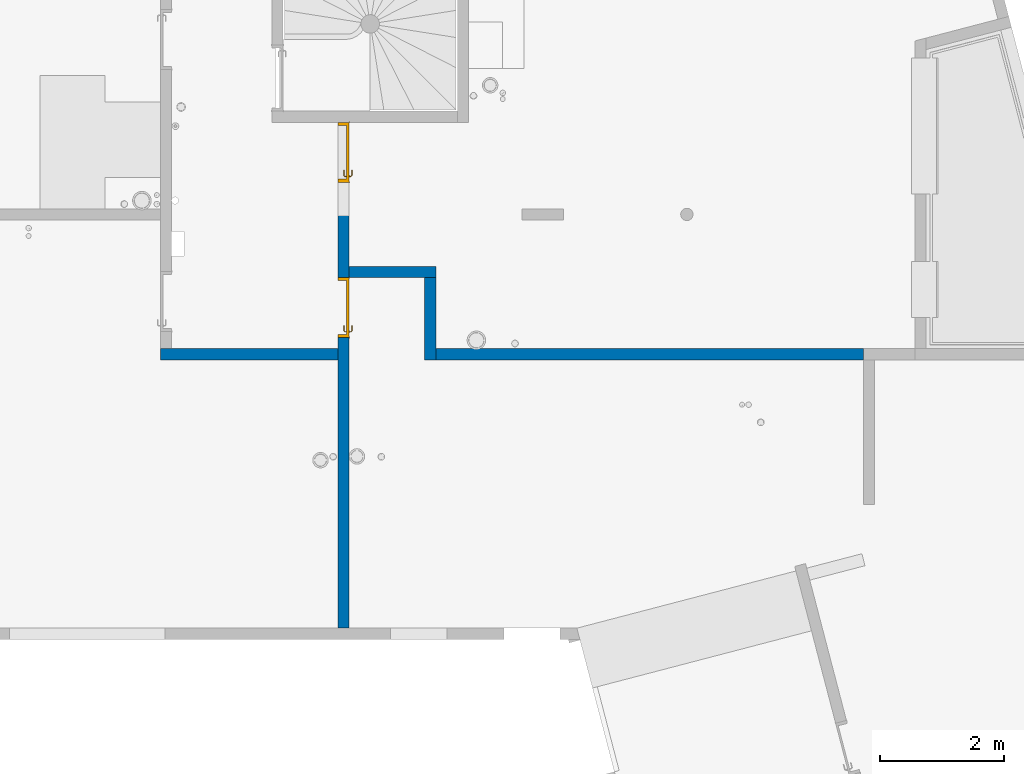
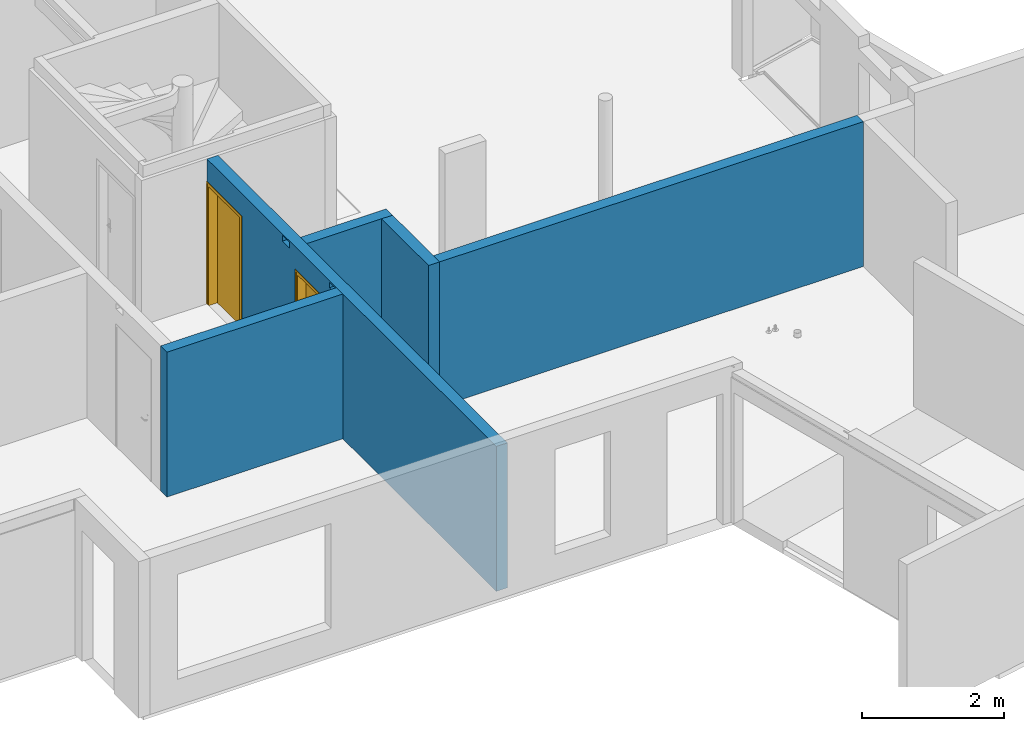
# One storey, part 13 of 24: 5 walls, 2 doors, 4 openings.
"""IFC2X3 building model written with IfcOpenShell, lengths in centimetres."""

import ifcopenshell
import ifcopenshell.guid

model = None  # the IFC model being written
_history = None  # IfcOwnerHistory: only IFC2X3 demands one
_inside = {}  # id of a spatial element -> (the spatial element, [elements in it])
_under = {}  # id of a project, library or spatial element -> (it, [spatial elements below it])
_declared = {}  # id of a project -> (the project, [libraries it declares])
_typed = {}  # id of a type object -> (the type object, [elements of that type])
_made_of = {}  # id of a material, layer set ... -> (it, [elements and type objects made of it])


def new_model(schema):
    """Start an empty IFC model of exactly this schema.

    Asked for "IFC4X3", IfcOpenShell would pick the latest addendum, in which some entities
    have other attributes; the version numbers below select the first issue.
    IFC2X3 requires an IfcOwnerHistory on every rooted entity: one is made here for all.
    """
    global model, _history
    if schema == "IFC4X3":
        model = ifcopenshell.file(schema_version=(4, 3, 0, 0))
    else:
        model = ifcopenshell.file(schema=schema)
    _inside.clear()
    _under.clear()
    _declared.clear()
    _typed.clear()
    _made_of.clear()
    _history = None
    if model.schema == "IFC2X3":
        org = make("IfcOrganization", Name="unknown")
        user = make(
            "IfcPersonAndOrganization",
            ThePerson=make("IfcPerson", FamilyName="unknown"),
            TheOrganization=org,
        )
        app = make(
            "IfcApplication",
            ApplicationDeveloper=org,
            Version="unknown",
            ApplicationFullName="unknown",
            ApplicationIdentifier="unknown",
        )
        _history = make(
            "IfcOwnerHistory",
            OwningUser=user,
            OwningApplication=app,
            ChangeAction="ADDED",
            CreationDate=0,
        )
    return model


def make(cls, **values):
    """One entity of the class cls with the attributes given. An attribute that is None is left unset."""
    return model.create_entity(
        cls, **{name: value for name, value in values.items() if value is not None}
    )


def entity(cls, *values):
    """Any entity or typed value of the class cls, its attributes in the order of the schema. None: left unset."""
    e = model.create_entity(cls)
    for i, value in enumerate(values):
        if value is not None:
            e[i] = value
    return e


def rooted(cls, **values):
    """An entity with a GlobalId (a new one), such as an element, a storey or a relation."""
    return make(cls, GlobalId=ifcopenshell.guid.new(), OwnerHistory=_history, **values)


def si_unit(unit_type, name, prefix=None):
    """IfcSIUnit, for example si_unit("LENGTHUNIT", "METRE", prefix="MILLI")."""
    return make("IfcSIUnit", UnitType=unit_type, Prefix=prefix, Name=name)


def converted_unit(unit_type, name, factor, base, dimensions=None, offset=None):
    """IfcConversionBasedUnit, such as the inch: factor (a typed value) times the base unit."""
    return make(
        "IfcConversionBasedUnit"
        if offset is None
        else "IfcConversionBasedUnitWithOffset",
        ConversionOffset=offset,
        Dimensions=None
        if dimensions is None
        else entity("IfcDimensionalExponents", *dimensions),
        UnitType=unit_type,
        Name=name,
        ConversionFactor=make(
            "IfcMeasureWithUnit", ValueComponent=factor, UnitComponent=base
        ),
    )


def derived_unit(unit_type, elements):
    """IfcDerivedUnit: a product of units, each with its exponent."""
    return make(
        "IfcDerivedUnit",
        Elements=[
            make("IfcDerivedUnitElement", Unit=unit, Exponent=power)
            for unit, power in elements
        ],
        UnitType=unit_type,
    )


def assignment(units):
    """IfcUnitAssignment: the units of a project."""
    return None if units is None else make("IfcUnitAssignment", Units=units)


def point(xyz):
    """IfcCartesianPoint."""
    return None if xyz is None else make("IfcCartesianPoint", Coordinates=xyz)


def direction(xyz):
    """IfcDirection."""
    return None if xyz is None else make("IfcDirection", DirectionRatios=xyz)


def frame(location, z_axis=None, x_axis=None):
    """IfcAxis2Placement3D, a coordinate frame: its origin and axes. An axis left out is left unset."""
    return make(
        "IfcAxis2Placement3D",
        Location=point(location),
        Axis=direction(z_axis),
        RefDirection=direction(x_axis),
    )


def frame_2d(location, x_axis=None):
    """IfcAxis2Placement2D, a coordinate frame in the plane: its origin and x axis."""
    return make(
        "IfcAxis2Placement2D", Location=point(location), RefDirection=direction(x_axis)
    )


def origin():
    """The frame at (0, 0, 0) with its axes left unset."""
    return frame((0.0, 0.0, 0.0))


def place(relative_to, where):
    """IfcLocalPlacement: puts the frame where relative to a parent placement (None: the world)."""
    return make(
        "IfcLocalPlacement", PlacementRelTo=relative_to, RelativePlacement=where
    )


def context(
    kind, dimensions, precision=None, world=None, true_north=None, identifier=None
):
    """IfcGeometricRepresentationContext, for example the 3D "Model" context."""
    return make(
        "IfcGeometricRepresentationContext",
        ContextIdentifier=identifier,
        ContextType=kind,
        CoordinateSpaceDimension=dimensions,
        Precision=precision,
        WorldCoordinateSystem=world,
        TrueNorth=true_north,
    )


def subcontext(parent, identifier, kind, view, scale=None):
    """IfcGeometricRepresentationSubContext, for example "Body" below "Model"."""
    return make(
        "IfcGeometricRepresentationSubContext",
        ContextIdentifier=identifier,
        ContextType=kind,
        ParentContext=parent,
        TargetScale=scale,
        TargetView=view,
    )


def project(units=None, contexts=None):
    """IfcProject with its units and contexts."""
    return rooted(
        "IfcProject",
        Name="project",
        RepresentationContexts=contexts,
        UnitsInContext=assignment(units),
    )


def spatial(cls, under=None, at=None, **own):
    """A site, building, storey or space (cls), placed at a placement, below another one or the project."""
    s = rooted(cls, ObjectPlacement=at, **own)
    if under is not None:
        _under.setdefault(under.id(), (under, []))[1].append(s)
    return s


def profile(cls, at=None, kind="AREA", **sizes):
    """A parametric profile (cls). Its sizes go by their IFC names, for example OverallWidth=200.0."""
    return make(cls, ProfileType=kind, Position=at, **sizes)


def rectangle(**sizes):
    """IfcRectangleProfileDef."""
    return profile("IfcRectangleProfileDef", **sizes)


def extrude(swept, where, along, depth):
    """IfcExtrudedAreaSolid: the profile swept, set in the frame where, extruded along a direction by depth."""
    return make(
        "IfcExtrudedAreaSolid",
        SweptArea=swept,
        Position=where,
        ExtrudedDirection=direction(along),
        Depth=depth,
    )


def faces_of(points, faces, orient=None, outer=None):
    """IfcFace entities. A face is a list of loops; a loop is a list of indices into points, from 0.

    orient and outer hold one flag for each loop. By default every Orientation is true, the
    first loop of a face is its IfcFaceOuterBound and the others are IfcFaceBound.
    """
    made = []
    for i, loops in enumerate(faces):
        bounds = []
        for j, loop in enumerate(loops):
            is_outer = j == 0 if outer is None else outer[i][j]
            bounds.append(
                make(
                    "IfcFaceOuterBound" if is_outer else "IfcFaceBound",
                    Bound=make("IfcPolyLoop", Polygon=[points[k] for k in loop]),
                    Orientation=True if orient is None else orient[i][j],
                )
            )
        made.append(make("IfcFace", Bounds=bounds))
    return made


def faceted_brep(points, faces, orient=None, outer=None, voids=None):
    """IfcFacetedBrep: a solid bounded by flat faces; with voids (closed shells), ...WithVoids."""
    shared = [point(p) for p in points]
    hull = make("IfcClosedShell", CfsFaces=faces_of(shared, faces, orient, outer))
    if voids is None:
        return make("IfcFacetedBrep", Outer=hull)
    return make(
        "IfcFacetedBrepWithVoids",
        Outer=hull,
        Voids=[
            make(cls, CfsFaces=faces_of(shared, fs, o, b)) for cls, fs, o, b in voids
        ],
    )


def shape(context_of_items, identifier, shape_type, items):
    """IfcShapeRepresentation: the items that make up one representation, for example the "Body"."""
    return make(
        "IfcShapeRepresentation",
        ContextOfItems=context_of_items,
        RepresentationIdentifier=identifier,
        RepresentationType=shape_type,
        Items=items,
    )


def source(mapping_origin, context_of_items, identifier, shape_type, items):
    """IfcRepresentationMap: a shape defined once, which mapped items show again and again."""
    return make(
        "IfcRepresentationMap",
        MappingOrigin=mapping_origin,
        MappedRepresentation=shape(context_of_items, identifier, shape_type, items),
    )


def transform(
    local_origin,
    x_axis=None,
    y_axis=None,
    z_axis=None,
    scale=None,
    scale2=None,
    scale3=None,
    uniform=True,
):
    """IfcCartesianTransformationOperator3D, or its non-uniform kind. x_axis, y_axis, z_axis: its Axis1, 2, 3."""
    if uniform:
        return make(
            "IfcCartesianTransformationOperator3D",
            Axis1=direction(x_axis),
            Axis2=direction(y_axis),
            LocalOrigin=point(local_origin),
            Scale=scale,
            Axis3=direction(z_axis),
        )
    return make(
        "IfcCartesianTransformationOperator3DnonUniform",
        Axis1=direction(x_axis),
        Axis2=direction(y_axis),
        LocalOrigin=point(local_origin),
        Scale=scale,
        Axis3=direction(z_axis),
        Scale2=scale2,
        Scale3=scale3,
    )


def mapped(mapping_source, mapping_target):
    """IfcMappedItem: shows the shape of a source again, moved by a transform."""
    return make(
        "IfcMappedItem", MappingSource=mapping_source, MappingTarget=mapping_target
    )


def material(Name=None, Category=None):
    """IfcMaterial."""
    return make("IfcMaterial", Name=Name, Category=Category)


def material_list(materials):
    """IfcMaterialList."""
    return make("IfcMaterialList", Materials=materials)


def layer(
    of_material, thickness, ventilated=None, Name=None, Category=None, Priority=None
):
    """IfcMaterialLayer: one layer of a wall or slab, of a material (None: an air gap)."""
    return make(
        "IfcMaterialLayer",
        Material=of_material,
        LayerThickness=thickness,
        IsVentilated=ventilated,
        Name=Name,
        Category=Category,
        Priority=Priority,
    )


def layer_set(layers, Name=None):
    """IfcMaterialLayerSet."""
    return make("IfcMaterialLayerSet", MaterialLayers=layers, LayerSetName=Name)


def layer_usage(for_layer_set, set_direction, sense, offset, extent=None):
    """IfcMaterialLayerSetUsage: how a layer set lies in its element."""
    return make(
        "IfcMaterialLayerSetUsage",
        ForLayerSet=for_layer_set,
        LayerSetDirection=set_direction,
        DirectionSense=sense,
        OffsetFromReferenceLine=offset,
        ReferenceExtent=extent,
    )


def made_of(thing, what):
    """Note that an element or type object is made of a material, layer set ...; save() writes the relation."""
    if what is not None:
        _made_of.setdefault(what.id(), (what, []))[1].append(thing)
    return thing


def type_object(cls, material=None, **own):
    """A type object (cls), such as IfcWallType, which elements share."""
    return made_of(rooted(cls, **own), material)


def type_shapes(of_type, sources):
    """Give a type object the sources (RepresentationMaps) that its elements show as mapped items."""
    of_type.RepresentationMaps = sources


def element(
    cls,
    number,
    at=None,
    inside=None,
    cuts=None,
    type_object=None,
    material=None,
    context=None,
    identifier="Body",
    shape_type=None,
    held_by="IfcProductDefinitionShape",
    body=None,
    shapes=None,
    **own,
):
    """One element of the class cls, such as IfcWall. Its Tag is "e" and its number.

    at: its placement. inside: the storey or other place that contains it. cuts: it is an
    opening in that element (IfcRelVoidsElement). A single representation is given by context,
    identifier, shape_type and body (its items); several are given by shapes. held_by: the class
    of the entity that holds the representations. save() writes the other relations.
    """
    e = rooted(cls, Tag="e%d" % number, ObjectPlacement=at, **own)
    if body is not None:
        shapes = [shape(context, identifier, shape_type, body)]
    if shapes is not None:
        e.Representation = make(held_by, Representations=shapes)
    if inside is not None:
        _inside.setdefault(inside.id(), (inside, []))[1].append(e)
    if cuts is not None:
        rooted(
            "IfcRelVoidsElement", RelatingBuildingElement=cuts, RelatedOpeningElement=e
        )
    if type_object is not None:
        _typed.setdefault(type_object.id(), (type_object, []))[1].append(e)
    return made_of(e, material)


def fill(opening, filler):
    """IfcRelFillsElement: the door or window that sits in an opening."""
    return rooted(
        "IfcRelFillsElement",
        RelatingOpeningElement=opening,
        RelatedBuildingElement=filler,
    )


def aggregate(whole, parts):
    """IfcRelAggregates: a whole, such as a stair, and the parts it consists of."""
    return rooted("IfcRelAggregates", RelatingObject=whole, RelatedObjects=parts)


def save(model, path):
    """Write the relations noted so far, then the file.

    IfcRelAggregates (storeys below a building ...), IfcRelContainedInSpatialStructure (elements
    in a storey), IfcRelDefinesByType, IfcRelAssociatesMaterial and IfcRelDeclares: one each for
    every whole, place, type object, material and project.
    """
    for whole, parts in _under.values():
        aggregate(whole, parts)
    for where, things in _inside.values():
        rooted(
            "IfcRelContainedInSpatialStructure",
            RelatedElements=things,
            RelatingStructure=where,
        )
    for kind, things in _typed.values():
        rooted("IfcRelDefinesByType", RelatedObjects=things, RelatingType=kind)
    for what, things in _made_of.values():
        rooted("IfcRelAssociatesMaterial", RelatedObjects=things, RelatingMaterial=what)
    for by, libraries in _declared.values():
        rooted("IfcRelDeclares", RelatingContext=by, RelatedDefinitions=libraries)
    model.write(path)


model = new_model("IFC2X3")

# Units and contexts
model_context = context("Model", 3, precision=0.001, world=origin(), true_north=direction((6.12303176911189e-17, 1.0)))
body_context = subcontext(model_context, "Body", "Model", "MODEL_VIEW")
ifc_project = project(units=[si_unit("LENGTHUNIT", "METRE", prefix="CENTI"), si_unit("AREAUNIT", "SQUARE_METRE"), si_unit("VOLUMEUNIT", "CUBIC_METRE"), converted_unit("PLANEANGLEUNIT", "DEGREE", entity("IfcRatioMeasure", 0.0174532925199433), si_unit("PLANEANGLEUNIT", "RADIAN"), dimensions=[0, 0, 0, 0, 0, 0, 0]), si_unit("MASSUNIT", "GRAM", prefix="KILO"), derived_unit("MASSDENSITYUNIT", [(si_unit("MASSUNIT", "GRAM", prefix="KILO"), 1), (si_unit("LENGTHUNIT", "METRE"), -3)]), si_unit("TIMEUNIT", "SECOND"), si_unit("FREQUENCYUNIT", "HERTZ"), si_unit("THERMODYNAMICTEMPERATUREUNIT", "DEGREE_CELSIUS"), derived_unit("THERMALTRANSMITTANCEUNIT", [(si_unit("MASSUNIT", "GRAM", prefix="KILO"), 1), (si_unit("THERMODYNAMICTEMPERATUREUNIT", "KELVIN"), -1), (si_unit("TIMEUNIT", "SECOND"), -3)]), derived_unit("VOLUMETRICFLOWRATEUNIT", [(si_unit("LENGTHUNIT", "METRE"), 3), (si_unit("TIMEUNIT", "SECOND"), -1)]), si_unit("ELECTRICCURRENTUNIT", "AMPERE"), si_unit("ELECTRICVOLTAGEUNIT", "VOLT"), si_unit("POWERUNIT", "WATT"), si_unit("FORCEUNIT", "NEWTON"), si_unit("ILLUMINANCEUNIT", "LUX"), si_unit("LUMINOUSFLUXUNIT", "LUMEN"), si_unit("LUMINOUSINTENSITYUNIT", "CANDELA"), derived_unit("USERDEFINED", [(si_unit("MASSUNIT", "GRAM", prefix="KILO"), -1), (si_unit("LENGTHUNIT", "METRE"), -2), (si_unit("TIMEUNIT", "SECOND"), 3), (si_unit("LUMINOUSFLUXUNIT", "LUMEN"), 1)]), derived_unit("LINEARVELOCITYUNIT", [(si_unit("LENGTHUNIT", "METRE"), 1), (si_unit("TIMEUNIT", "SECOND"), -1)]), si_unit("PRESSUREUNIT", "PASCAL"), derived_unit("USERDEFINED", [(si_unit("LENGTHUNIT", "METRE"), -2), (si_unit("MASSUNIT", "GRAM", prefix="KILO"), 1), (si_unit("TIMEUNIT", "SECOND"), -2)])], contexts=[model_context])

# Site, building, storey
site_placement = place(None, origin())
site = spatial("IfcSite", under=ifc_project, at=site_placement, Name="Default", CompositionType="ELEMENT")
building_placement = place(site_placement, origin())
building = spatial("IfcBuilding", under=site, at=building_placement, Name="CAGE 03", CompositionType="ELEMENT")
storey_placement = place(building_placement, frame((0.0, 0.0, 880.0)))
storey = spatial("IfcBuildingStorey", under=building, at=storey_placement, Name="R+3", CompositionType="ELEMENT", Elevation=880.0)

# Wall
ifc_material_1 = material(Name="Béton, C25/30")
ifc_layer = layer(ifc_material_1, 18.0)
ifc_layer_set = layer_set([ifc_layer], Name="Mur de base:Voile BA 18")
ifc_layer_usage_1 = layer_usage(ifc_layer_set, "AXIS2", "POSITIVE", -9.0)
wall_type = type_object("IfcWallType", Name="Mur de base:Voile BA 18", PredefinedType="STANDARD", material=ifc_layer_set)
wall_1_placement = place(storey_placement, frame((10455.3658201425, 4390.66066607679, 0.0), z_axis=(0.0, 0.0, 1.0), x_axis=(-1.0, 0.0, 0.0)))
element("IfcWallStandardCase", 1, at=wall_1_placement, inside=storey, type_object=wall_type, material=ifc_layer_usage_1, Name="Mur de base:Voile BA 18", ObjectType="Mur de base:Voile BA 18", context=body_context, shape_type="SweptSolid", body=[
    extrude(rectangle(XDim=139.999999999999, YDim=17.9999999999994, at=frame_2d((69.9999999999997, -1.81188397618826e-13), x_axis=(-1.0, 0.0))), origin(), (0.0, 0.0, 1.0), 250.0),
])

# Wall, openings, doors
ifc_layer_usage_2 = layer_usage(ifc_layer_set, "AXIS2", "POSITIVE", -9.0)
wall_2_placement = place(storey_placement, frame((10306.3658201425, 4632.66066607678, 0.0), z_axis=(0.0, 0.0, 1.0), x_axis=(0.0, -1.0, 0.0)))
wall_2 = element("IfcWallStandardCase", 2, at=wall_2_placement, inside=storey, type_object=wall_type, material=ifc_layer_usage_2, Name="Mur de base:Voile BA 18", ObjectType="Mur de base:Voile BA 18", context=body_context, shape_type="SweptSolid", body=[
    extrude(rectangle(XDim=817.999999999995, YDim=17.9999999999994, at=frame_2d((408.999999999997, 5.23137089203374e-13), x_axis=(-1.0, 0.0))), origin(), (0.0, 0.0, 1.0), 250.0),
])
opening_1_placement = place(wall_2_placement, origin())
element("IfcOpeningElement", 3, at=opening_1_placement, cuts=wall_2, Name="Mur de base:Voile BA 18", ObjectType="Opening", context=body_context, shape_type="SweptSolid", body=[
    extrude(rectangle(XDim=9.99999999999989, YDim=19.9999999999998, at=frame_2d((-4.33431068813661e-13, 0.0), x_axis=(0.0, 1.0))), frame((223.0, -9.0, 242.5), z_axis=(0.0, 1.0, 0.0), x_axis=(1.0, 0.0, 0.0)), (0.0, 0.0, 1.0), 17.9999999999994),
])
opening_2_placement = place(wall_2_placement, origin())
element("IfcOpeningElement", 4, at=opening_2_placement, cuts=wall_2, Name="Mur de base:Voile BA 18", ObjectType="Opening", context=body_context, shape_type="SweptSolid", body=[
    extrude(rectangle(XDim=9.99999999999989, YDim=19.9999999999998, at=frame_2d((4.33431068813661e-13, 0.0), x_axis=(0.0, 1.0))), frame((356.0, -9.0, 242.5), z_axis=(0.0, 1.0, 0.0), x_axis=(1.0, 0.0, 0.0)), (0.0, 0.0, 1.0), 17.9999999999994),
])
opening_3_placement = place(wall_2_placement, frame((251.0, -9.0, 0.0)))
opening_3 = element("IfcOpeningElement", 5, at=opening_3_placement, cuts=wall_2, Name="Int. Simple:HB93:1", ObjectType="Opening", context=body_context, shape_type="SweptSolid", body=[
    extrude(rectangle(XDim=210.000000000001, YDim=96.9999999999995, at=frame_2d((105.000000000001, 48.4999999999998), x_axis=(1.0, 0.0))), frame((0.0, 0.0, 0.0), z_axis=(0.0, 1.0, 0.0), x_axis=(0.0, 0.0, 1.0)), (0.0, 0.0, 1.0), 18.0),
])
opening_4_placement = place(wall_2_placement, frame((0.0, -9.0, 0.0)))
opening_4 = element("IfcOpeningElement", 6, at=opening_4_placement, cuts=wall_2, Name="Int. Simple:HB93:1", ObjectType="Opening", context=body_context, shape_type="SweptSolid", body=[
    extrude(rectangle(XDim=210.000000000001, YDim=96.9999999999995, at=frame_2d((105.000000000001, 48.4999999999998), x_axis=(1.0, 0.0))), frame((0.0, 0.0, 0.0), z_axis=(0.0, 1.0, 0.0), x_axis=(0.0, 0.0, 1.0)), (0.0, 0.0, 1.0), 18.0),
])
ifc_material_2 = material(Name="Finition Peinture - Blanc satiné")
ifc_material_3 = material(Name="Bois - Panneau de porte")
ifc_material_4 = material(Name="Bois - Cadre de porte")
ifc_material_list_1 = material_list([ifc_material_2, ifc_material_3, ifc_material_4])
ifc_material_list_2 = material_list([ifc_material_2, ifc_material_3, ifc_material_4])
door_style = type_object("IfcDoorStyle", Name="HB93", ConstructionType="NOTDEFINED", OperationType="SINGLE_SWING_LEFT", ParameterTakesPrecedence=False, Sizeable=False, material=ifc_material_list_2)
shared_shape = source(origin(), body_context, "Body", "Brep", [
    faceted_brep([(10.5352761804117, -0.500000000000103, 86.6003983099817), (11.5000000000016, -0.500000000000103, 87.0), (11.5000000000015, -0.500000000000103, 108.0), (10.5352761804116, -0.500000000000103, 108.399601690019), (9.50000000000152, -0.500000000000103, 108.535898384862), (8.46472381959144, -0.500000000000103, 108.399601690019), (7.50000000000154, -0.500000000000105, 108.0), (7.50000000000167, -0.500000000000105, 87.0), (8.46472381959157, -0.500000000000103, 86.6003983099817), (9.50000000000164, -0.500000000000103, 86.464101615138), (10.5352761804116, 0.0, 108.399601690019), (11.5000000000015, 0.0, 108.0), (11.5000000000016, 0.0, 87.0), (10.5352761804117, 0.0, 86.6003983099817), (9.50000000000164, 0.0, 86.464101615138), (8.46472381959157, 0.0, 86.6003983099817), (7.50000000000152, 0.0, 87.0), (7.50000000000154, 0.0, 108.0), (8.46472381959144, 0.0, 108.399601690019), (9.50000000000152, 0.0, 108.535898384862)], [[[0, 1, 2, 3, 4, 5, 6, 7, 8, 9]], [[10, 11, 12, 13, 14, 15, 16, 17, 18, 19]], [[16, 15, 8, 7]], [[8, 15, 14, 9]], [[14, 13, 0, 9]], [[13, 12, 1, 0]], [[2, 1, 12, 11]], [[11, 10, 3, 2]], [[3, 10, 19, 4]], [[19, 18, 5, 4]], [[18, 17, 6, 5]], [[7, 6, 17, 16]]]),
    faceted_brep([(10.5352761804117, 4.0, 86.6003983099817), (11.5000000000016, 4.0, 87.0), (11.5000000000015, 4.0, 108.0), (10.5352761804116, 4.0, 108.399601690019), (9.50000000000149, 4.0, 108.535898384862), (8.46472381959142, 4.0, 108.399601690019), (7.50000000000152, 4.0, 108.0), (7.50000000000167, 4.0, 87.0), (8.46472381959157, 4.0, 86.6003983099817), (9.50000000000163, 4.0, 86.464101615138), (10.5352761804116, 4.49999999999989, 108.399601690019), (11.5000000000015, 4.4999999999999, 108.0), (11.5000000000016, 4.4999999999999, 87.0), (10.5352761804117, 4.49999999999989, 86.6003983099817), (9.50000000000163, 4.49999999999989, 86.464101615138), (8.46472381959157, 4.49999999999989, 86.6003983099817), (7.50000000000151, 4.49999999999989, 87.0), (7.50000000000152, 4.49999999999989, 108.0), (8.46472381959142, 4.49999999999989, 108.399601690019), (9.50000000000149, 4.49999999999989, 108.535898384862)], [[[0, 1, 2, 3, 4, 5, 6, 7, 8, 9]], [[10, 11, 12, 13, 14, 15, 16, 17, 18, 19]], [[11, 10, 3, 2]], [[3, 10, 19, 4]], [[19, 18, 5, 4]], [[18, 17, 6, 5]], [[7, 6, 17, 16]], [[16, 15, 8, 7]], [[8, 15, 14, 9]], [[14, 13, 0, 9]], [[13, 12, 1, 0]], [[2, 1, 12, 11]]]),
    faceted_brep([(9.29747013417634, -0.500000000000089, 100.778044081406), (9.70252986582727, -0.500000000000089, 100.778044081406), (10.1000000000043, -0.500000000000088, 100.699999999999), (10.1000000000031, -0.500000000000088, 99.3000000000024), (9.70252986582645, -0.500000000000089, 99.2219559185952), (9.29747013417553, -0.500000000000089, 99.221955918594), (8.89999999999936, -0.500000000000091, 99.2999999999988), (8.89999999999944, -0.500000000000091, 100.7), (8.89999999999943, -3.26509507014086, 100.7), (9.29747013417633, -3.10045754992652, 100.778044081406), (10.9023585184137, -4.70534593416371, 100.778044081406), (11.0701397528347, -4.30028620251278, 100.778044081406), (9.70252986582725, -2.93267631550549, 100.778044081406), (10.1000000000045, -2.76803879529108, 100.7), (10.1000000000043, -2.76803879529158, 99.3000000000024), (9.70252986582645, -2.93267631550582, 99.2219559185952), (11.0701397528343, -4.30028620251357, 99.2219559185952), (10.9023585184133, -4.70534593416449, 99.221955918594), (9.29747013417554, -3.10045754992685, 99.221955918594), (8.89999999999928, -3.26509507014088, 99.2999999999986), (10.7377209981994, -5.1028160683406, 100.7), (11.2347772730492, -3.90281606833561, 100.7), (11.2347772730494, -3.90281606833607, 99.3000000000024), (10.7377209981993, -5.10281606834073, 99.2999999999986), (19.5018640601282, -5.1028160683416, 99.2999999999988), (19.5018640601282, -4.70534593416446, 99.221955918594), (19.5018640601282, -4.30028620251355, 99.2219559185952), (19.5018640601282, -3.90281606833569, 99.3000000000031), (19.5018640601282, -3.90281606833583, 100.7), (19.5018640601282, -4.30028620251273, 100.778044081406), (19.5018640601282, -4.70534593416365, 100.778044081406), (19.5018640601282, -5.10281606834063, 100.699999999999), (14.7307697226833, -5.10281606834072, 100.7), (15.28600190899, -4.5028160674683, 100.78786867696), (15.3683206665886, -3.9028160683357, 100.7), (15.3683206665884, -3.90281606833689, 99.3000000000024), (15.2860018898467, -4.50281607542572, 99.2121313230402), (14.7307700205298, -5.10281606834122, 99.2999999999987)], [[[0, 1, 2, 3, 4, 5, 6, 7]], [[8, 9, 0, 7]], [[9, 10, 11, 12, 1, 0]], [[12, 13, 2, 1]], [[3, 2, 13, 14]], [[14, 15, 4, 3]], [[15, 16, 17, 18, 5, 4]], [[18, 19, 6, 5]], [[7, 6, 19, 8]], [[20, 10, 9, 8]], [[11, 21, 13, 12]], [[14, 13, 21, 22]], [[22, 16, 15, 14]], [[17, 23, 19, 18]], [[8, 19, 23, 20]], [[24, 25, 26, 27, 28, 29, 30, 31]], [[32, 30, 33]], [[31, 30, 32]], [[10, 20, 32]], [[33, 34, 11]], [[21, 11, 34]], [[34, 29, 28]], [[30, 29, 33]], [[29, 34, 33]], [[10, 32, 33]], [[10, 33, 11]], [[22, 21, 34, 28, 27, 35]], [[35, 26, 36]], [[37, 36, 25]], [[22, 35, 16]], [[35, 27, 26]], [[24, 37, 25]], [[23, 17, 37]], [[37, 17, 36]], [[17, 16, 36]], [[16, 35, 36]], [[25, 36, 26]], [[20, 23, 37, 24, 31, 32]]]),
    faceted_brep([(9.29747013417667, 4.49999999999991, 100.778044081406), (8.89999999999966, 4.49999999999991, 100.7), (8.89999999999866, 4.49999999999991, 99.2999999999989), (9.2974701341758, 4.49999999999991, 99.221955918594), (9.70252986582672, 4.49999999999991, 99.2219559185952), (10.1000000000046, 4.49999999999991, 99.3000000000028), (10.1000000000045, 4.49999999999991, 100.7), (9.70252986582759, 4.49999999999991, 100.778044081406), (10.1000000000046, 6.7485204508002, 99.3000000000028), (10.1000000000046, 6.74852045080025, 100.7), (9.70252986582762, 6.91315797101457, 100.778044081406), (11.0838906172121, 8.29451872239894, 100.778044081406), (10.9161093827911, 8.69957845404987, 100.778044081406), (9.29747013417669, 7.0809392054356, 100.778044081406), (8.89999999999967, 7.24557672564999, 100.7), (8.89999999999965, 7.24557672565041, 99.2999999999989), (9.29747013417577, 7.08093920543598, 99.221955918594), (10.9161093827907, 8.69957845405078, 99.221955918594), (11.0838906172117, 8.29451872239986, 99.2219559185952), (9.7025298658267, 6.91315797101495, 99.2219559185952), (11.2485281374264, 7.89704858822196, 99.3000000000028), (11.2485281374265, 7.89704858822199, 100.7), (10.7514718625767, 9.0970485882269, 100.7), (10.751471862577, 9.0970485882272, 99.2999999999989), (19.504578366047, 7.89704858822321, 99.3000000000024), (19.504578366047, 8.29451872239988, 99.2219559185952), (19.504578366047, 8.6995784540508, 99.221955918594), (19.504578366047, 9.09704858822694, 99.2999999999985), (19.504578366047, 9.09704858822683, 100.7), (19.504578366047, 8.69957845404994, 100.778044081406), (19.504578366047, 8.29451872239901, 100.778044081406), (19.504578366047, 7.89704858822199, 100.7), (15.3765520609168, 7.89704858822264, 99.3000000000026), (15.3765532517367, 7.89704858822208, 100.7), (15.294234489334, 8.49704858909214, 100.78786867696), (14.7445205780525, 9.09704858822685, 100.7), (14.7445204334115, 9.09704858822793, 99.2999999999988), (15.2942345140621, 8.49704858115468, 99.2121313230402)], [[[0, 1, 2, 3, 4, 5, 6, 7]], [[6, 5, 8, 9]], [[9, 10, 7, 6]], [[10, 11, 12, 13, 0, 7]], [[13, 14, 1, 0]], [[2, 1, 14, 15]], [[15, 16, 3, 2]], [[16, 17, 18, 19, 4, 3]], [[19, 8, 5, 4]], [[9, 8, 20, 21]], [[21, 11, 10, 9]], [[12, 22, 14, 13]], [[15, 14, 22, 23]], [[23, 17, 16, 15]], [[18, 20, 8, 19]], [[24, 25, 26, 27, 28, 29, 30, 31]], [[21, 20, 32, 24, 31, 33]], [[33, 30, 34]], [[35, 34, 29]], [[21, 33, 11]], [[33, 31, 30]], [[28, 35, 29]], [[22, 12, 35]], [[35, 12, 34]], [[12, 11, 34]], [[11, 33, 34]], [[29, 34, 30]], [[22, 35, 28, 27, 36, 23]], [[36, 26, 37]], [[27, 26, 36]], [[17, 23, 36]], [[37, 32, 18]], [[20, 18, 32]], [[32, 25, 24]], [[26, 25, 37]], [[25, 32, 37]], [[17, 36, 37]], [[17, 37, 18]]]),
    faceted_brep([(3.50000000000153, 4.0, 206.5), (93.5000000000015, 4.0, 206.5), (93.5000000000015, 4.0, 0.0), (3.50000000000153, 4.0, 0.0), (3.50000000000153, 0.0, 206.5), (3.50000000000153, 0.0, 0.0), (93.5000000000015, 0.0, 0.0), (93.5000000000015, 0.0, 206.5)], [[[0, 1, 2, 3]], [[4, 5, 6, 7]], [[1, 0, 4, 7]], [[2, 1, 7, 6]], [[3, 2, 6, 5]], [[0, 3, 5, 4]]]),
    faceted_brep([(0.0, 0.0, 0.0), (0.0, 18.0, 0.0), (5.0, 18.0, 0.0), (5.0, 4.0, 0.0), (3.50000000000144, 4.0, 0.0), (3.50000000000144, 0.0, 0.0), (0.0, 0.0, 210.0), (0.0, 18.0, 210.0), (97.0, 18.0, 210.0), (97.0, 18.0, 0.0), (92.0, 18.0, 0.0), (92.0, 18.0, 205.0), (5.0, 18.0, 205.0), (5.0, 4.0, 205.0), (92.0, 4.0, 205.0), (92.0, 4.0, 0.0), (93.4999999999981, 4.0, 0.0), (93.4999999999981, 4.0, 206.5), (3.50000000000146, 4.0, 206.5), (3.50000000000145, 0.0, 206.5), (93.4999999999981, 0.0, 206.5), (93.4999999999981, 0.0, 0.0), (97.0, 0.0, 0.0), (97.0, 0.0, 210.0)], [[[0, 1, 2, 3, 4, 5]], [[1, 0, 6, 7]], [[2, 1, 7, 8, 9, 10, 11, 12]], [[3, 2, 12, 13]], [[4, 3, 13, 14, 15, 16, 17, 18]], [[5, 4, 18, 19]], [[0, 5, 19, 20, 21, 22, 23, 6]], [[8, 23, 22, 9]], [[22, 21, 16, 15, 10, 9]], [[14, 11, 10, 15]], [[20, 17, 16, 21]], [[7, 6, 23, 8]], [[13, 12, 11, 14]], [[19, 18, 17, 20]]]),
    faceted_brep([(1.5, 18.0, 0.0), (-1.49999999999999, 18.0, 0.0), (-1.49999999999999, 18.5000000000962, 0.0), (1.5, 18.5000000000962, 0.0), (1.5, 18.0, 208.500000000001), (95.4999999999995, 18.0, 208.500000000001), (95.4999999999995, 18.0, 0.0), (98.4999999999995, 18.0, 0.0), (98.4999999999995, 18.0, 211.500000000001), (-1.49999999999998, 18.0, 211.500000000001), (-1.49999999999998, 18.5000000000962, 211.500000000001), (98.4999999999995, 18.5000000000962, 211.500000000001), (98.4999999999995, 18.5000000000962, 0.0), (95.4999999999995, 18.5000000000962, 0.0), (95.4999999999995, 18.5000000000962, 208.500000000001), (1.50000000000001, 18.5000000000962, 208.500000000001)], [[[0, 1, 2, 3]], [[1, 0, 4, 5, 6, 7, 8, 9]], [[2, 1, 9, 10]], [[3, 2, 10, 11, 12, 13, 14, 15]], [[0, 3, 15, 4]], [[6, 13, 12, 7]], [[5, 14, 13, 6]], [[11, 8, 7, 12]], [[10, 9, 8, 11]], [[4, 15, 14, 5]]]),
    faceted_brep([(-1.49999999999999, -0.5, 0.0), (1.5, -0.5, 0.0), (1.5, -0.5, 208.500000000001), (95.4999999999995, -0.5, 208.500000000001), (95.4999999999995, -0.5, 0.0), (98.4999999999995, -0.5, 0.0), (98.4999999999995, -0.5, 211.500000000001), (-1.49999999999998, -0.5, 211.500000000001), (-1.49999999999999, 0.0, 0.0), (-1.49999999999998, 0.0, 211.500000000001), (1.5, 0.0, 0.0), (98.4999999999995, 0.0, 211.500000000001), (98.4999999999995, 0.0, 0.0), (95.4999999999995, 0.0, 0.0), (95.4999999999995, 0.0, 208.500000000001), (1.50000000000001, 0.0, 208.500000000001)], [[[0, 1, 2, 3, 4, 5, 6, 7]], [[8, 0, 7, 9]], [[10, 8, 9, 11, 12, 13, 14, 15]], [[1, 10, 15, 2]], [[3, 14, 13, 4]], [[11, 6, 5, 12]], [[9, 7, 6, 11]], [[2, 15, 14, 3]], [[4, 13, 12, 5]], [[1, 0, 8, 10]]]),
])
type_shapes(door_style, [shared_shape])
door_1_placement = place(opening_3_placement, frame((97.0, 18.0, 0.0), z_axis=(0.0, 0.0, 1.0), x_axis=(-1.0, 0.0, 0.0)))
door_1 = element("IfcDoor", 7, at=door_1_placement, inside=storey, type_object=door_style, material=ifc_material_list_1, Name="Int. Simple:HB93", ObjectType="HB93", OverallHeight=210.000000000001, OverallWidth=96.9999999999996, context=body_context, shape_type="MappedRepresentation", body=[
    mapped(shared_shape, transform((0.0, 0.0, 0.0), scale=1.0)),
])
fill(opening_3, door_1)
ifc_material_list_3 = material_list([ifc_material_2, ifc_material_3, ifc_material_4])
door_2_placement = place(opening_4_placement, frame((97.0, 18.0, 0.0), z_axis=(0.0, 0.0, 1.0), x_axis=(-1.0, 0.0, 0.0)))
door_2 = element("IfcDoor", 8, at=door_2_placement, inside=storey, type_object=door_style, material=ifc_material_list_3, Name="Int. Simple:HB93", ObjectType="HB93", OverallHeight=210.000000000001, OverallWidth=96.9999999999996, context=body_context, shape_type="MappedRepresentation", body=[
    mapped(shared_shape, transform((0.0, 0.0, 0.0), scale=1.0)),
])
fill(opening_4, door_2)

# Walls
ifc_layer_usage_3 = layer_usage(ifc_layer_set, "AXIS2", "POSITIVE", -9.0)
wall_3_placement = place(storey_placement, frame((10446.3658201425, 4381.66066607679, 0.0), z_axis=(0.0, 0.0, 1.0), x_axis=(0.0, -1.0, 0.0)))
element("IfcWallStandardCase", 9, at=wall_3_placement, inside=storey, type_object=wall_type, material=ifc_layer_usage_3, Name="Mur de base:Voile BA 18", ObjectType="Mur de base:Voile BA 18", context=body_context, shape_type="SweptSolid", body=[
    extrude(rectangle(XDim=133.0, YDim=17.9999999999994, at=frame_2d((66.5, 2.70894418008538e-13), x_axis=(-1.0, 0.0))), origin(), (0.0, 0.0, 1.0), 250.0),
])
ifc_layer_usage_4 = layer_usage(ifc_layer_set, "AXIS2", "POSITIVE", -9.0)
wall_4_placement = place(storey_placement, frame((10297.3658201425, 4257.66066607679, 0.0), z_axis=(0.0, 0.0, 1.0), x_axis=(-1.0, 0.0, 0.0)))
element("IfcWallStandardCase", 10, at=wall_4_placement, inside=storey, type_object=wall_type, material=ifc_layer_usage_4, Name="Mur de base:Voile BA 18", ObjectType="Mur de base:Voile BA 18", context=body_context, shape_type="SweptSolid", body=[
    extrude(rectangle(XDim=287.000000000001, YDim=17.9999999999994, at=frame_2d((143.5, -1.60760293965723e-13), x_axis=(-1.0, 0.0))), origin(), (0.0, 0.0, 1.0), 250.0),
])
ifc_layer_usage_5 = layer_usage(ifc_layer_set, "AXIS2", "POSITIVE", -9.0)
wall_5_placement = place(storey_placement, frame((11146.8658201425, 4257.66066607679, 0.0), z_axis=(0.0, 0.0, 1.0), x_axis=(-1.0, 0.0, 0.0)))
element("IfcWallStandardCase", 11, at=wall_5_placement, inside=storey, type_object=wall_type, material=ifc_layer_usage_5, Name="Mur de base:Voile BA 18", ObjectType="Mur de base:Voile BA 18", context=body_context, shape_type="SweptSolid", body=[
    extrude(rectangle(XDim=691.499999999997, YDim=17.9999999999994, at=frame_2d((345.749999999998, -5.86197757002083e-14), x_axis=(-1.0, 0.0))), origin(), (0.0, 0.0, 1.0), 250.0),
])

save(model, "model.ifc")
